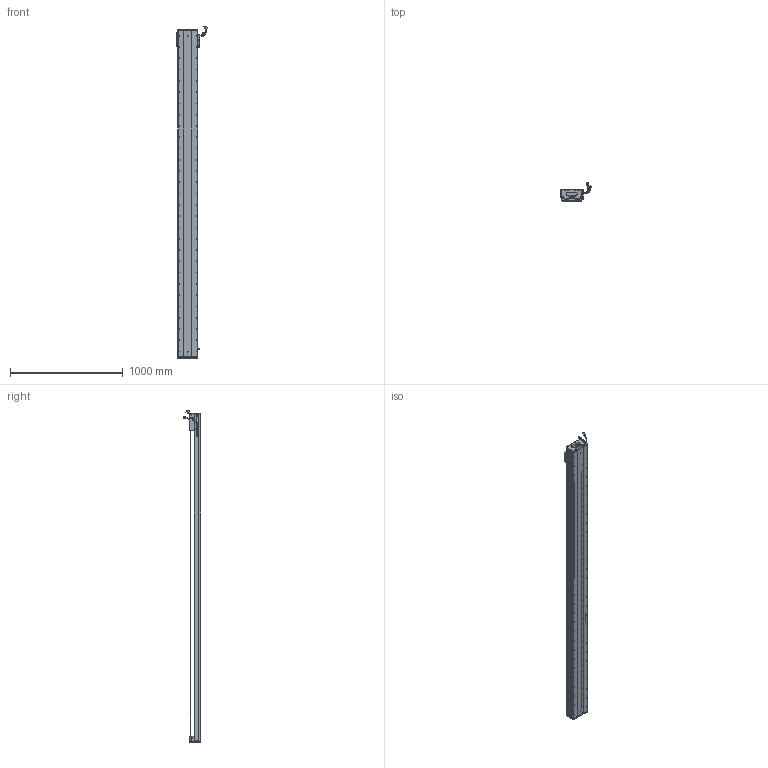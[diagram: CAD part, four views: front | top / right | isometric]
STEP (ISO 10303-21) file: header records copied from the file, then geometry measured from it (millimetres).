
FILE_DESCRIPTION (( 'STEP AP203' ), '1' );
FILE_NAME ('Z1-RY170D-1-L500-B-K.SLDASM_2700.step', '2021-05-17T08:56:32', ( '盈信电脑' ), ( '东莞市道滘镇水果街19号' ), 'SwSTEP 2.0', 'SolidWorks 2016', '' );
FILE_SCHEMA (( 'CONFIG_CONTROL_DESIGN' ));
Length unit declared in the file: millimetre
Products named in the file (36): SCREW-M1.7-1; Z-RY170詩湍奻揤裔; Z-RY170詩湍狟揤裔; 080黍杅芛假蚾釱21遴; Z-170詩湍傷裔啣; Z1-RY170臏賑輸(21遴); SEAL; 170-Z-臏賑輸盄裔(21遴); SCREW-M1.7; LABEL-Part-1; 140蚥薯蝶輸; HARNESS-Part-2; SCALE-Part-1; Z1-RY170D-1-L500-B-K.SLDASM_2700; SCREW-M1.6; Z1-RY170-L500詩湍145mm遵_2700; Z1-RY170-L500耀郪菁釱_2700; PSLH080_PSLF2; 140雄赽晤鎢ん堤盄; 覜茼ん672; PBU_SHEET; SCREW-M1.6-3; SEAL-Part-1; HARNESS; COVER; HARNESS-Part-1; 榋妏寠巭燃_暯_M2_2; RY170直线电机感应器672光电感应片; COVER-Part-1; LABEL; SCALE-Part-2; HOLDER0; SCALE; SCREW-M1.6-1; SHIELDPLATE; SCREW-M1.6-2
Assembly tree (41 placements, depth 4):
  Z1-RY170D-1-L500-B-K.SLDASM_2700
    Z1-RY170-L500耀郪菁釱_2700
    RY170直线电机感应器672光电感应片
    Z1-RY170臏賑輸(21遴)
    覜茼ん672  x3
    PSLH080_PSLF2
      SCALE
        SCALE-Part-1
        SCALE-Part-2
      HARNESS
        HARNESS-Part-1
        HARNESS-Part-2
      LABEL
        LABEL-Part-1
      COVER
        COVER-Part-1
      SEAL
        SEAL-Part-1
      榋妏寠巭燃_暯_M2_2
      SHIELDPLATE
      SCREW-M1.7
      SCREW-M1.7-1
      PBU_SHEET
      SCREW-M1.6
      SCREW-M1.6-1
      SCREW-M1.6-2
      SCREW-M1.6-3
      HOLDER0
    080黍杅芛假蚾釱21遴
    Z1-RY170-L500詩湍145mm遵_2700
    Z-170詩湍傷裔啣  x2
    Z-RY170詩湍奻揤裔  x2
    Z-RY170詩湍狟揤裔  x2
    140蚥薯蝶輸  x2
    170-Z-臏賑輸盄裔(21遴)
    140雄赽晤鎢ん堤盄
Bounding box: 275.29 x 158.11 x 2943.72 mm (x, y, z)
Volume: 13944693.7 mm3; surface area: 3491440.2 mm2
Topology: 36 solids, 36 shells, 4186 faces, 11701 edges, 7307 vertices
Faces by surface type: cylinder 2144, plane 1328, cone 592, torus 69, bspline 53
Entity records: 133585 total; most frequent: CARTESIAN_POINT 38220, ORIENTED_EDGE 19790, DIRECTION 18167, EDGE_CURVE 9895, AXIS2_PLACEMENT_3D 6684, VERTEX_POINT 6425, VECTOR 4799, LINE 4799
